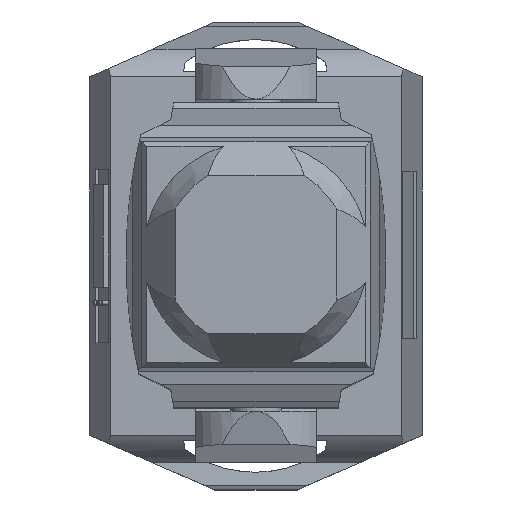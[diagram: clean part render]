
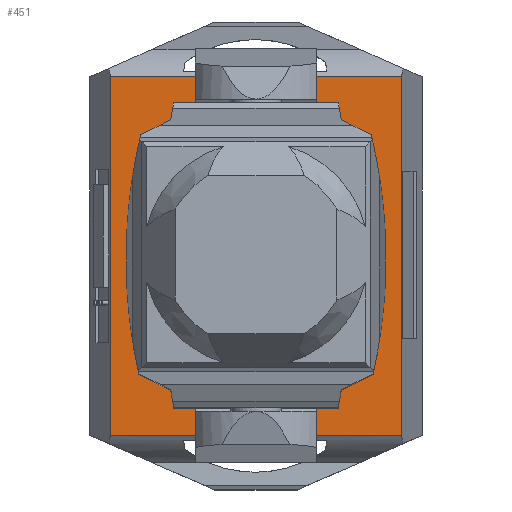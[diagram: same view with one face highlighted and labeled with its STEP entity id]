
A CAD part, top view. The second image highlights one B-rep face of the part: STEP entity #451.
In plain terms, the highlighted planar face has unit normal (0, 0, 1).
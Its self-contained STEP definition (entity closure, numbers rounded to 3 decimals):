
#451 = ADVANCED_FACE( '', ( #1025, #1026 ), #1027, .T. );
#1025 = FACE_BOUND( '', #1810, .T. );
#1026 = FACE_OUTER_BOUND( '', #1811, .T. );
#1027 = PLANE( '', #1812 );
#1810 = EDGE_LOOP( '', ( #2760 ) );
#1811 = EDGE_LOOP( '', ( #2761, #2762, #2763, #2764 ) );
#1812 = AXIS2_PLACEMENT_3D( '', #2765, #2766, #2767 );
#2760 = ORIENTED_EDGE( '', *, *, #4521, .F. );
#2761 = ORIENTED_EDGE( '', *, *, #4506, .T. );
#2762 = ORIENTED_EDGE( '', *, *, #4644, .F. );
#2763 = ORIENTED_EDGE( '', *, *, #4645, .F. );
#2764 = ORIENTED_EDGE( '', *, *, #4646, .T. );
#2765 = CARTESIAN_POINT( '', ( -113.978, -225., 76.122 ) );
#2766 = DIRECTION( '', ( 0., 0., 1. ) );
#2767 = DIRECTION( '', ( 1., 0., 0. ) );
#4506 = EDGE_CURVE( '', #5321, #5319, #5322, .T. );
#4521 = EDGE_CURVE( '', #5348, #5348, #5349, .T. );
#4644 = EDGE_CURVE( '', #5565, #5319, #5566, .T. );
#4645 = EDGE_CURVE( '', #5567, #5565, #5568, .T. );
#4646 = EDGE_CURVE( '', #5567, #5321, #5569, .T. );
#5319 = VERTEX_POINT( '', #6509 );
#5321 = VERTEX_POINT( '', #6511 );
#5322 = LINE( '', #6512, #6513 );
#5348 = VERTEX_POINT( '', #6571 );
#5349 = CIRCLE( '', #6572, 32.831 );
#5565 = VERTEX_POINT( '', #6859 );
#5566 = LINE( '', #6860, #6861 );
#5567 = VERTEX_POINT( '', #6862 );
#5568 = LINE( '', #6863, #6864 );
#5569 = LINE( '', #6865, #6866 );
#6509 = CARTESIAN_POINT( '', ( -113.978, 140.676, 76.122 ) );
#6511 = CARTESIAN_POINT( '', ( 113.978, 140.676, 76.122 ) );
#6512 = CARTESIAN_POINT( '', ( 527.491, 140.676, 76.122 ) );
#6513 = VECTOR( '', #8079, 1000. );
#6571 = CARTESIAN_POINT( '', ( 32.831, 0., 76.122 ) );
#6572 = AXIS2_PLACEMENT_3D( '', #8102, #8103, #8104 );
#6859 = CARTESIAN_POINT( '', ( -113.978, -140.676, 76.122 ) );
#6860 = CARTESIAN_POINT( '', ( -113.978, -225., 76.122 ) );
#6861 = VECTOR( '', #8257, 1000. );
#6862 = CARTESIAN_POINT( '', ( 113.978, -140.676, 76.122 ) );
#6863 = CARTESIAN_POINT( '', ( 527.491, -140.676, 76.122 ) );
#6864 = VECTOR( '', #8258, 1000. );
#6865 = CARTESIAN_POINT( '', ( 113.978, -225., 76.122 ) );
#6866 = VECTOR( '', #8259, 1000. );
#8079 = DIRECTION( '', ( -1., 0., 0. ) );
#8102 = CARTESIAN_POINT( '', ( 0., 0., 76.122 ) );
#8103 = DIRECTION( '', ( 0., 0., 1. ) );
#8104 = DIRECTION( '', ( 1., 0., 0. ) );
#8257 = DIRECTION( '', ( 0., 1., 0. ) );
#8258 = DIRECTION( '', ( -1., 0., 0. ) );
#8259 = DIRECTION( '', ( 0., 1., 0. ) );
